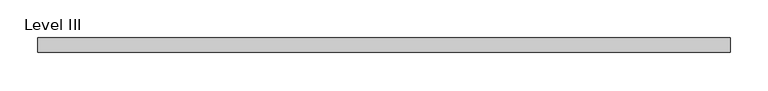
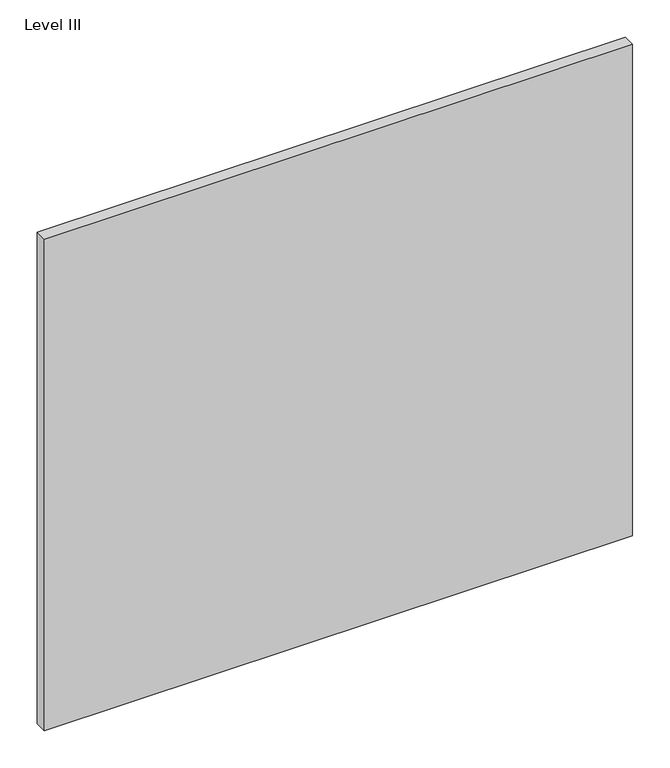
"""IFC4 building model written with IfcOpenShell, lengths in millimetres: proxy geometry, Panel-Fascia-Teknion-Altos-Standard : Level III."""

import ifcopenshell
import ifcopenshell.guid

model = None  # the IFC model being written
_history = None  # IfcOwnerHistory: only IFC2X3 demands one
_inside = {}  # id of a spatial element -> (the spatial element, [elements in it])
_under = {}  # id of a project, library or spatial element -> (it, [spatial elements below it])
_declared = {}  # id of a project -> (the project, [libraries it declares])
_typed = {}  # id of a type object -> (the type object, [elements of that type])
_made_of = {}  # id of a material, layer set ... -> (it, [elements and type objects made of it])


def new_model(schema):
    """Start an empty IFC model of exactly this schema.

    Asked for "IFC4X3", IfcOpenShell would pick the latest addendum, in which some entities
    have other attributes; the version numbers below select the first issue.
    IFC2X3 requires an IfcOwnerHistory on every rooted entity: one is made here for all.
    """
    global model, _history
    if schema == "IFC4X3":
        model = ifcopenshell.file(schema_version=(4, 3, 0, 0))
    else:
        model = ifcopenshell.file(schema=schema)
    _inside.clear()
    _under.clear()
    _declared.clear()
    _typed.clear()
    _made_of.clear()
    _history = None
    if model.schema == "IFC2X3":
        org = make("IfcOrganization", Name="unknown")
        user = make(
            "IfcPersonAndOrganization",
            ThePerson=make("IfcPerson", FamilyName="unknown"),
            TheOrganization=org,
        )
        app = make(
            "IfcApplication",
            ApplicationDeveloper=org,
            Version="unknown",
            ApplicationFullName="unknown",
            ApplicationIdentifier="unknown",
        )
        _history = make(
            "IfcOwnerHistory",
            OwningUser=user,
            OwningApplication=app,
            ChangeAction="ADDED",
            CreationDate=0,
        )
    return model


def make(cls, **values):
    """One entity of the class cls with the attributes given. An attribute that is None is left unset."""
    return model.create_entity(
        cls, **{name: value for name, value in values.items() if value is not None}
    )


def rooted(cls, **values):
    """An entity with a GlobalId (a new one), such as an element, a storey or a relation."""
    return make(cls, GlobalId=ifcopenshell.guid.new(), OwnerHistory=_history, **values)


def si_unit(unit_type, name, prefix=None):
    """IfcSIUnit, for example si_unit("LENGTHUNIT", "METRE", prefix="MILLI")."""
    return make("IfcSIUnit", UnitType=unit_type, Prefix=prefix, Name=name)


def assignment(units):
    """IfcUnitAssignment: the units of a project."""
    return None if units is None else make("IfcUnitAssignment", Units=units)


def point(xyz):
    """IfcCartesianPoint."""
    return None if xyz is None else make("IfcCartesianPoint", Coordinates=xyz)


def direction(xyz):
    """IfcDirection."""
    return None if xyz is None else make("IfcDirection", DirectionRatios=xyz)


def frame(location, z_axis=None, x_axis=None):
    """IfcAxis2Placement3D, a coordinate frame: its origin and axes. An axis left out is left unset."""
    return make(
        "IfcAxis2Placement3D",
        Location=point(location),
        Axis=direction(z_axis),
        RefDirection=direction(x_axis),
    )


def origin():
    """The frame at (0, 0, 0) with its axes left unset."""
    return frame((0.0, 0.0, 0.0))


def place(relative_to, where):
    """IfcLocalPlacement: puts the frame where relative to a parent placement (None: the world)."""
    return make(
        "IfcLocalPlacement", PlacementRelTo=relative_to, RelativePlacement=where
    )


def context(
    kind, dimensions, precision=None, world=None, true_north=None, identifier=None
):
    """IfcGeometricRepresentationContext, for example the 3D "Model" context."""
    return make(
        "IfcGeometricRepresentationContext",
        ContextIdentifier=identifier,
        ContextType=kind,
        CoordinateSpaceDimension=dimensions,
        Precision=precision,
        WorldCoordinateSystem=world,
        TrueNorth=true_north,
    )


def project(units=None, contexts=None):
    """IfcProject with its units and contexts."""
    return rooted(
        "IfcProject",
        Name="project",
        RepresentationContexts=contexts,
        UnitsInContext=assignment(units),
    )


def spatial(cls, under=None, at=None, **own):
    """A site, building, storey or space (cls), placed at a placement, below another one or the project."""
    s = rooted(cls, ObjectPlacement=at, **own)
    if under is not None:
        _under.setdefault(under.id(), (under, []))[1].append(s)
    return s


def polyline(points):
    """IfcPolyline through the points."""
    return make("IfcPolyline", Points=[point(p) for p in points])


def outline(outer, holes=None, kind="AREA"):
    """IfcArbitraryClosedProfileDef: a profile drawn as a closed curve; with holes, ...WithVoids."""
    if holes is None:
        return make("IfcArbitraryClosedProfileDef", ProfileType=kind, OuterCurve=outer)
    return make(
        "IfcArbitraryProfileDefWithVoids",
        ProfileType=kind,
        OuterCurve=outer,
        InnerCurves=holes,
    )


def extrude(swept, where, along, depth):
    """IfcExtrudedAreaSolid: the profile swept, set in the frame where, extruded along a direction by depth."""
    return make(
        "IfcExtrudedAreaSolid",
        SweptArea=swept,
        Position=where,
        ExtrudedDirection=direction(along),
        Depth=depth,
    )


def shape(context_of_items, identifier, shape_type, items):
    """IfcShapeRepresentation: the items that make up one representation, for example the "Body"."""
    return make(
        "IfcShapeRepresentation",
        ContextOfItems=context_of_items,
        RepresentationIdentifier=identifier,
        RepresentationType=shape_type,
        Items=items,
    )


def source(mapping_origin, context_of_items, identifier, shape_type, items):
    """IfcRepresentationMap: a shape defined once, which mapped items show again and again."""
    return make(
        "IfcRepresentationMap",
        MappingOrigin=mapping_origin,
        MappedRepresentation=shape(context_of_items, identifier, shape_type, items),
    )


def transform(
    local_origin,
    x_axis=None,
    y_axis=None,
    z_axis=None,
    scale=None,
    scale2=None,
    scale3=None,
    uniform=True,
):
    """IfcCartesianTransformationOperator3D, or its non-uniform kind. x_axis, y_axis, z_axis: its Axis1, 2, 3."""
    if uniform:
        return make(
            "IfcCartesianTransformationOperator3D",
            Axis1=direction(x_axis),
            Axis2=direction(y_axis),
            LocalOrigin=point(local_origin),
            Scale=scale,
            Axis3=direction(z_axis),
        )
    return make(
        "IfcCartesianTransformationOperator3DnonUniform",
        Axis1=direction(x_axis),
        Axis2=direction(y_axis),
        LocalOrigin=point(local_origin),
        Scale=scale,
        Axis3=direction(z_axis),
        Scale2=scale2,
        Scale3=scale3,
    )


def mapped(mapping_source, mapping_target):
    """IfcMappedItem: shows the shape of a source again, moved by a transform."""
    return make(
        "IfcMappedItem", MappingSource=mapping_source, MappingTarget=mapping_target
    )


def made_of(thing, what):
    """Note that an element or type object is made of a material, layer set ...; save() writes the relation."""
    if what is not None:
        _made_of.setdefault(what.id(), (what, []))[1].append(thing)
    return thing


def element(
    cls,
    number,
    at=None,
    inside=None,
    cuts=None,
    type_object=None,
    material=None,
    context=None,
    identifier="Body",
    shape_type=None,
    held_by="IfcProductDefinitionShape",
    body=None,
    shapes=None,
    **own,
):
    """One element of the class cls, such as IfcWall. Its Tag is "e" and its number.

    at: its placement. inside: the storey or other place that contains it. cuts: it is an
    opening in that element (IfcRelVoidsElement). A single representation is given by context,
    identifier, shape_type and body (its items); several are given by shapes. held_by: the class
    of the entity that holds the representations. save() writes the other relations.
    """
    e = rooted(cls, Tag="e%d" % number, ObjectPlacement=at, **own)
    if body is not None:
        shapes = [shape(context, identifier, shape_type, body)]
    if shapes is not None:
        e.Representation = make(held_by, Representations=shapes)
    if inside is not None:
        _inside.setdefault(inside.id(), (inside, []))[1].append(e)
    if cuts is not None:
        rooted(
            "IfcRelVoidsElement", RelatingBuildingElement=cuts, RelatedOpeningElement=e
        )
    if type_object is not None:
        _typed.setdefault(type_object.id(), (type_object, []))[1].append(e)
    return made_of(e, material)


def aggregate(whole, parts):
    """IfcRelAggregates: a whole, such as a stair, and the parts it consists of."""
    return rooted("IfcRelAggregates", RelatingObject=whole, RelatedObjects=parts)


def save(model, path):
    """Write the relations noted so far, then the file.

    IfcRelAggregates (storeys below a building ...), IfcRelContainedInSpatialStructure (elements
    in a storey), IfcRelDefinesByType, IfcRelAssociatesMaterial and IfcRelDeclares: one each for
    every whole, place, type object, material and project.
    """
    for whole, parts in _under.values():
        aggregate(whole, parts)
    for where, things in _inside.values():
        rooted(
            "IfcRelContainedInSpatialStructure",
            RelatedElements=things,
            RelatingStructure=where,
        )
    for kind, things in _typed.values():
        rooted("IfcRelDefinesByType", RelatedObjects=things, RelatingType=kind)
    for what, things in _made_of.values():
        rooted("IfcRelAssociatesMaterial", RelatedObjects=things, RelatingMaterial=what)
    for by, libraries in _declared.values():
        rooted("IfcRelDeclares", RelatingContext=by, RelatedDefinitions=libraries)
    model.write(path)


def level_iii_7577bcf6(model_context):
    return source(origin(), model_context, "Body", "SweptSolid", [
        extrude(outline(polyline([(455.6125, 9.525), (455.6125, -9.525), (-455.6125, -9.525), (-455.6125, 9.525), (455.6125, 9.525)])), frame((0.0, 0.0, 3.175), z_axis=(0.0, 0.0, 1.0), x_axis=(1.0, 0.0, 0.0)), (0.0, 0.0, 1.0), 804.418),
    ])


if __name__ == "__main__":
    model = new_model("IFC4")
    model_context = context("Model", 3, world=origin())
    ifc_project = project(units=[si_unit("LENGTHUNIT", "METRE", prefix="MILLI")], contexts=[model_context])
    site = spatial("IfcSite", under=ifc_project)
    building = spatial("IfcBuilding", under=site)
    placement = place(None, origin())
    level_iii_shape = level_iii_7577bcf6(model_context)
    element("IfcBuildingElementProxy", 1, Name="Panel-Fascia-Teknion-Altos-Standard : Level III", ObjectType="Panel-Fascia-Teknion-Altos-Standard : Level III", at=placement, inside=building, context=model_context, shape_type="MappedRepresentation", body=[
        mapped(level_iii_shape, transform((0.0, 0.0, 0.0), x_axis=(1.0, 0.0, 0.0), y_axis=(0.0, 1.0, 0.0), z_axis=(0.0, 0.0, 1.0))),
    ])
    save(model, "model.ifc")
